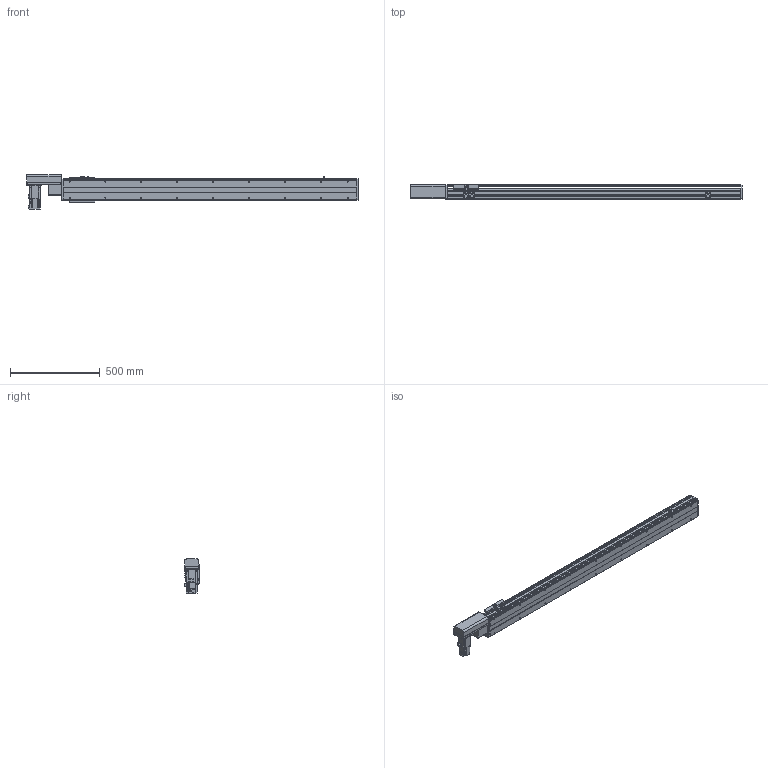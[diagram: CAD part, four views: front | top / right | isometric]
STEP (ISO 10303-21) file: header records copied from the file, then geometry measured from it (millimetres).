
FILE_DESCRIPTION( ( 'STEP AP214' ), '1' );
FILE_NAME( 'x:/temp/worker_27/temp/exporttempdir_6708_16_irwf7/format_0/PBS120-P40-S1350-R-T40-C1-N(0).stp', '2022-06-06T00:07:39', ( 'License CC BY-ND 4.0' ), ( 'CADENAS' ), ' ', 'PARTsolutions', ' ' );
FILE_SCHEMA( ( 'AUTOMOTIVE_DESIGN { 1 0 10303 214 1 1 1 1 }' ) );
Length unit declared in the file: millimetre
Products named in the file (7): PBS120-P40-S1350-R-T40-C1-N(0); _PBS120-S1350()_body; _PBS120T-R_motors; _T40-p1; _PBS120_sliser; _PBS120_plant; _PBS120_sensor
Assembly tree (8 placements, depth 2):
  PBS120-P40-S1350-R-T40-C1-N(0)
    _PBS120-S1350()_body
    _PBS120T-R_motors
    _T40-p1
    _PBS120_sliser
    _PBS120_plant
    _PBS120_sensor  x3
Bounding box: 1851 x 83 x 189.7 mm (x, y, z)
Volume: 7100529.1 mm3; surface area: 1415095.2 mm2
Topology: 8 solids, 8 shells, 834 faces, 2166 edges, 1393 vertices
Faces by surface type: plane 551, cylinder 231, cone 50, torus 2
Full cylindrical faces by diameter (mm): 2.459 x6, 3.242 x4, 4 x2, 4.134 x4, 4.5 x10, 4.917 x22, 5.5 x11, 6 x2, 6.6 x1, 7 x2, 8.5 x4, 9 x4, 12 x1, 14 x1, 30 x2, 40 x1, 50 x2
Entity records: 27492 total; most frequent: DIRECTION 3764, CARTESIAN_POINT 3695, ORIENTED_EDGE 3514, EDGE_CURVE 1757, AXIS2_PLACEMENT_3D 1268, LINE 1228, VECTOR 1228, VERTEX_POINT 1199
